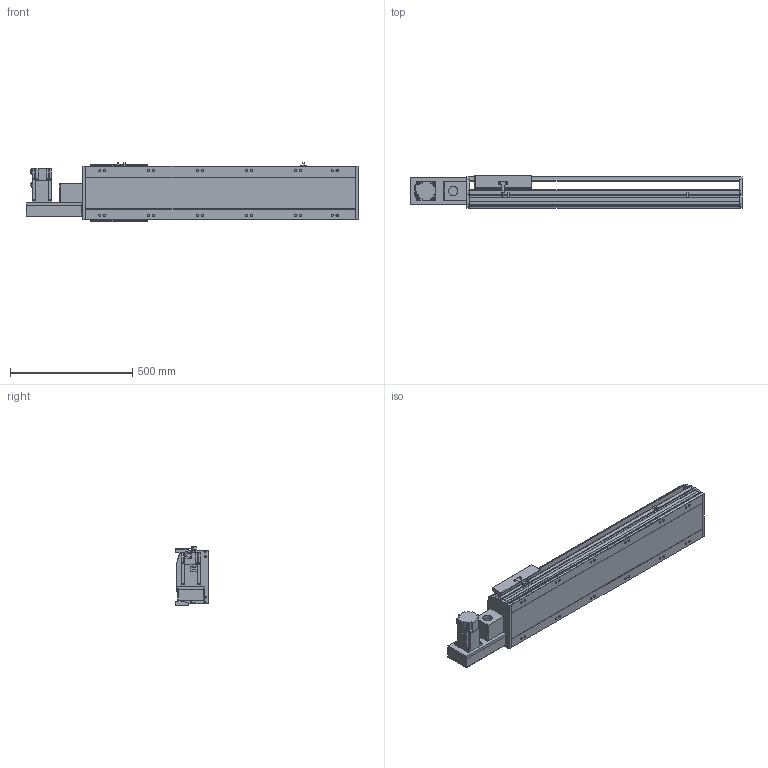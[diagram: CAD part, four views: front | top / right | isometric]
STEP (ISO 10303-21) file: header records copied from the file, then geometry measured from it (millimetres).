
FILE_DESCRIPTION(/* description */ ('STEP AP214'),/* implementation_level */ '2;1');
FILE_NAME(/* name */ 'PBS220-P40-S750-L-T75-C1-N(0)',/* time_stamp */ '2022-06-11T09:55:20+02:00',/* author */ ('License CC BY-ND 4.0'),/* organization */ ('CADENAS'),/* preprocessor_version */ 'ST-DEVELOPER v18.102',/* originating_system */ 'PARTsolutions',/* authorisation */ ' ');
FILE_SCHEMA (('AUTOMOTIVE_DESIGN {1 0 10303 214 3 1 1}'));
Length unit declared in the file: millimetre
Products named in the file (7): PBS220-P40-S750-L-T75-C1-N(0); PBS220_sensor; PBS220_plant; PBS220_sliser; T75-p1; PBS220T-L_motors; PBS220-S750()_body
Assembly tree (8 placements, depth 2):
  PBS220-P40-S750-L-T75-C1-N(0)
    PBS220_sensor  x3
    PBS220_plant
    PBS220_sliser
    T75-p1
    PBS220T-L_motors
    PBS220-S750()_body
Bounding box: 1356 x 134 x 238.5 mm (x, y, z)
Volume: 18092271.2 mm3; surface area: 1813232.5 mm2
Topology: 8 solids, 8 shells, 890 faces, 2340 edges, 1522 vertices
Faces by surface type: plane 590, cylinder 264, cone 36
Full cylindrical faces by diameter (mm): 2.013 x4, 4.5 x14, 4.917 x4, 6 x7, 6.647 x8, 8 x10, 8.376 x12, 8.5 x12, 10 x6, 14 x12, 38 x2, 40 x1, 70 x1
Entity records: 25005 total; most frequent: CARTESIAN_POINT 4360, DIRECTION 4347, ORIENTED_EDGE 4034, EDGE_CURVE 2017, AXIS2_PLACEMENT_3D 1503, VERTEX_POINT 1384, LINE 1341, VECTOR 1341
